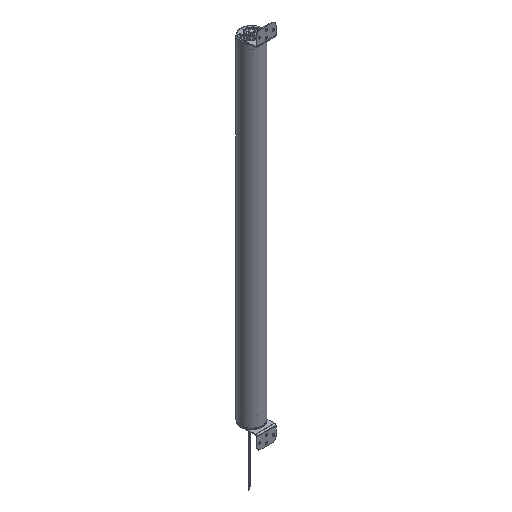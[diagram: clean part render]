
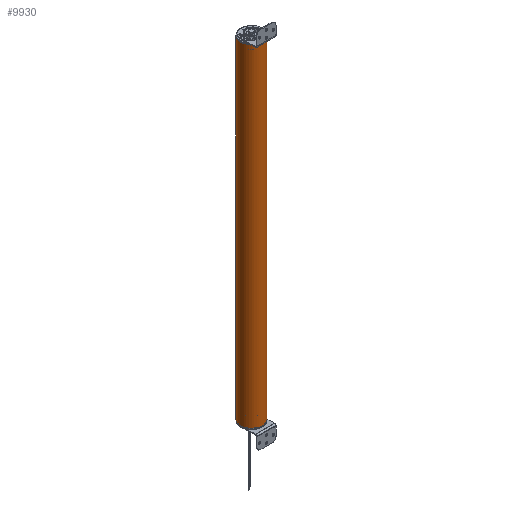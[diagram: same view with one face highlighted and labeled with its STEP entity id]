
A CAD part, isometric view. The second image highlights one B-rep face of the part: STEP entity #9930.
In plain terms, the highlighted cylindrical face has radius 40 mm (diameter 80 mm), a partial arc.
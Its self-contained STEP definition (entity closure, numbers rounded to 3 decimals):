
#2329 = CARTESIAN_POINT ( 'NONE',  ( 0., 0., 1215.7 ) ) ;
#3373 = VERTEX_POINT ( 'NONE', #7531 ) ;
#3508 = AXIS2_PLACEMENT_3D ( 'NONE', #13602, #10543, #34441 ) ;
#6505 = DIRECTION ( 'NONE',  ( -1., 0., 0. ) ) ;
#6577 = DIRECTION ( 'NONE',  ( 0., 0., -1. ) ) ;
#7529 = CARTESIAN_POINT ( 'NONE',  ( 40., 0., 1215.7 ) ) ;
#7531 = CARTESIAN_POINT ( 'NONE',  ( 40., 0., 0. ) ) ;
#9278 = ORIENTED_EDGE ( 'NONE', *, *, #14948, .T. ) ;
#9488 = CIRCLE ( 'NONE', #19894, 40. ) ;
#9930 = ADVANCED_FACE ( 'NONE', ( #24782 ), #31102, .T. ) ;
#10543 = DIRECTION ( 'NONE',  ( 0., 0., -1. ) ) ;
#10745 = EDGE_CURVE ( 'NONE', #3373, #34433, #9488, .T. ) ;
#12295 = CARTESIAN_POINT ( 'NONE',  ( -40., 0., 1215.7 ) ) ;
#13281 = CARTESIAN_POINT ( 'NONE',  ( 40., 0., 1215.7 ) ) ;
#13602 = CARTESIAN_POINT ( 'NONE',  ( 0., 0., 1215.7 ) ) ;
#13885 = ORIENTED_EDGE ( 'NONE', *, *, #10745, .T. ) ;
#14105 = CARTESIAN_POINT ( 'NONE',  ( -40., 0., 1215.7 ) ) ;
#14948 = EDGE_CURVE ( 'NONE', #27986, #16303, #23040, .T. ) ;
#15034 = VECTOR ( 'NONE', #16126, 1000. ) ;
#16126 = DIRECTION ( 'NONE',  ( 0., 0., -1. ) ) ;
#16303 = VERTEX_POINT ( 'NONE', #7529 ) ;
#16379 = CARTESIAN_POINT ( 'NONE',  ( -40., 0., 0. ) ) ;
#16857 = EDGE_CURVE ( 'NONE', #27986, #34433, #18407, .T. ) ;
#18407 = LINE ( 'NONE', #12295, #31798 ) ;
#19138 = ORIENTED_EDGE ( 'NONE', *, *, #16857, .F. ) ;
#19216 = DIRECTION ( 'NONE',  ( -1., 0., 0. ) ) ;
#19894 = AXIS2_PLACEMENT_3D ( 'NONE', #25077, #34672, #6505 ) ;
#21513 = EDGE_CURVE ( 'NONE', #16303, #3373, #31663, .T. ) ;
#22059 = ORIENTED_EDGE ( 'NONE', *, *, #21513, .T. ) ;
#22449 = EDGE_LOOP ( 'NONE', ( #9278, #22059, #13885, #19138 ) ) ;
#23040 = CIRCLE ( 'NONE', #3508, 40. ) ;
#24782 = FACE_OUTER_BOUND ( 'NONE', #22449, .T. ) ;
#25077 = CARTESIAN_POINT ( 'NONE',  ( 0., 0., 0. ) ) ;
#27986 = VERTEX_POINT ( 'NONE', #14105 ) ;
#30020 = AXIS2_PLACEMENT_3D ( 'NONE', #2329, #39693, #19216 ) ;
#31102 = CYLINDRICAL_SURFACE ( 'NONE', #30020, 40. ) ;
#31663 = LINE ( 'NONE', #13281, #15034 ) ;
#31798 = VECTOR ( 'NONE', #6577, 1000. ) ;
#34433 = VERTEX_POINT ( 'NONE', #16379 ) ;
#34441 = DIRECTION ( 'NONE',  ( -1., 0., 0. ) ) ;
#34672 = DIRECTION ( 'NONE',  ( 0., 0., 1. ) ) ;
#39693 = DIRECTION ( 'NONE',  ( 0., 0., -1. ) ) ;
